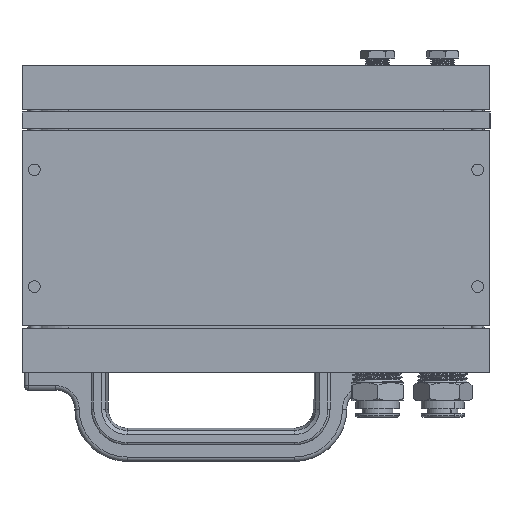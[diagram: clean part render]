
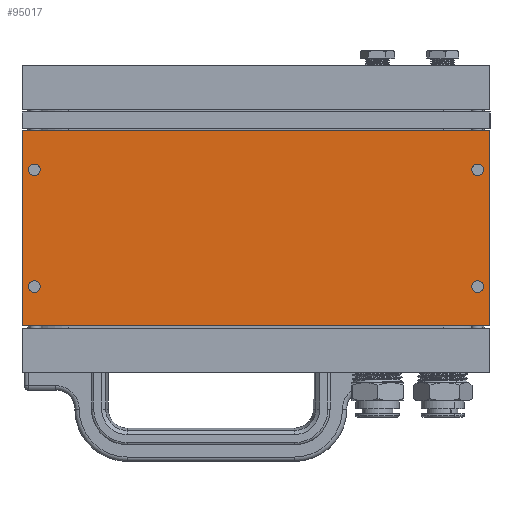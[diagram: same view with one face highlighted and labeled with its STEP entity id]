
A CAD part, front view. The second image highlights one B-rep face of the part: STEP entity #95017.
In plain terms, the highlighted planar face has unit normal (0, -1, 0).
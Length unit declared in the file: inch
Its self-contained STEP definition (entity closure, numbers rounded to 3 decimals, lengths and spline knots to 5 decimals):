
#143 = EDGE_LOOP ( 'NONE', ( #39914, #15014, #56661, #89652 ) ) ;
#324 = EDGE_LOOP ( 'NONE', ( #81173, #13217 ) ) ;
#838 = EDGE_CURVE ( 'Defeatured_0_766+Defeatured_0_759+Defeatured_0_760+Defeatured_0_762', #49766, #64704, #11660, .T. ) ;
#6622 = AXIS2_PLACEMENT_3D ( 'NONE', #99514, #28797, #68477 ) ;
#6866 = VERTEX_POINT ( 'NONE', #64709 ) ;
#9736 = DIRECTION ( 'NONE',  ( 1., 0., 0. ) ) ;
#11038 = CARTESIAN_POINT ( 'NONE',  ( -3.64173, -1.9202, -1.10925 ) ) ;
#11660 = LINE ( 'NONE', #67215, #30177 ) ;
#12342 = DIRECTION ( 'NONE',  ( -1., 0., 0. ) ) ;
#12642 = EDGE_CURVE ( 'Defeatured_0_940+Defeatured_0_759+Defeatured_0_759+Defeatured_0_759', #85215, #68831, #56760, .T. ) ;
#13217 = ORIENTED_EDGE ( 'NONE', *, *, #46165, .F. ) ;
#13472 = DIRECTION ( 'NONE',  ( 0., -1., 0. ) ) ;
#14097 = AXIS2_PLACEMENT_3D ( 'NONE', #44186, #91480, #67677 ) ;
#14709 = CIRCLE ( 'NONE', #71828, 0.09843 ) ;
#15014 = ORIENTED_EDGE ( 'NONE', *, *, #838, .F. ) ;
#15577 = CIRCLE ( 'NONE', #15764, 0.09843 ) ;
#15764 = AXIS2_PLACEMENT_3D ( 'NONE', #84209, #13472, #60719 ) ;
#18206 = ORIENTED_EDGE ( 'NONE', *, *, #90639, .F. ) ;
#18291 = ORIENTED_EDGE ( 'NONE', *, *, #67048, .F. ) ;
#20416 = CARTESIAN_POINT ( 'NONE',  ( -3.74016, -1.9202, -1.10925 ) ) ;
#20610 = FACE_OUTER_BOUND ( 'NONE', #143, .T. ) ;
#20754 = DIRECTION ( 'NONE',  ( 0., -1., 0. ) ) ;
#23290 = CARTESIAN_POINT ( 'NONE',  ( 3.95, -1.9202, -1.875 ) ) ;
#23300 = VECTOR ( 'NONE', #94346, 39.37008 ) ;
#23974 = EDGE_CURVE ( 'Defeatured_0_758+Defeatured_0_759+Defeatured_0_762+Defeatured_0_760', #81979, #59592, #99897, .T. ) ;
#23999 = EDGE_CURVE ( 'Defeatured_0_759+Defeatured_0_760+Defeatured_0_766+Defeatured_0_758', #49766, #59592, #51650, .T. ) ;
#24581 = ORIENTED_EDGE ( 'NONE', *, *, #12642, .F. ) ;
#25178 = EDGE_LOOP ( 'NONE', ( #18291, #65791 ) ) ;
#28797 = DIRECTION ( 'NONE',  ( 0., -1., 0. ) ) ;
#30177 = VECTOR ( 'NONE', #12342, 39.37008 ) ;
#30471 = CIRCLE ( 'NONE', #75310, 0.09843 ) ;
#32516 = VECTOR ( 'NONE', #47758, 39.37008 ) ;
#33876 = CARTESIAN_POINT ( 'NONE',  ( -3.95, -1.9202, -1.875 ) ) ;
#37268 = AXIS2_PLACEMENT_3D ( 'NONE', #33876, #81840, #65296 ) ;
#39914 = ORIENTED_EDGE ( 'NONE', *, *, #55363, .F. ) ;
#41809 = CIRCLE ( 'NONE', #14097, 0.09843 ) ;
#42167 = PLANE ( 'NONE',  #37268 ) ;
#43751 = EDGE_CURVE ( 'Defeatured_0_944+Defeatured_0_759+Defeatured_0_759+Defeatured_0_759', #88387, #64191, #15577, .T. ) ;
#44186 = CARTESIAN_POINT ( 'NONE',  ( -3.74016, -1.9202, 0.85925 ) ) ;
#46165 = EDGE_CURVE ( 'Defeatured_0_946+Defeatured_0_759+Defeatured_0_759+Defeatured_0_759', #92333, #6866, #53587, .T. ) ;
#46315 = DIRECTION ( 'NONE',  ( 0., -1., 0. ) ) ;
#46369 = CARTESIAN_POINT ( 'NONE',  ( -3.95, -1.9202, 1.525 ) ) ;
#46876 = AXIS2_PLACEMENT_3D ( 'NONE', #88096, #57343, #9736 ) ;
#47758 = DIRECTION ( 'NONE',  ( 0., 0., 1. ) ) ;
#49766 = VERTEX_POINT ( 'NONE', #58024 ) ;
#49790 = EDGE_CURVE ( 'Defeatured_0_946+Defeatured_0_759+Defeatured_0_759+Defeatured_0_759', #6866, #92333, #41809, .T. ) ;
#50020 = ORIENTED_EDGE ( 'NONE', *, *, #69313, .F. ) ;
#51650 = LINE ( 'NONE', #23290, #23300 ) ;
#52030 = CARTESIAN_POINT ( 'NONE',  ( -3.83858, -1.9202, 0.85925 ) ) ;
#52108 = CARTESIAN_POINT ( 'NONE',  ( 3.74016, -1.9202, -1.10925 ) ) ;
#53587 = CIRCLE ( 'NONE', #46876, 0.09843 ) ;
#53605 = AXIS2_PLACEMENT_3D ( 'NONE', #20416, #75632, #100436 ) ;
#55363 = EDGE_CURVE ( 'Defeatured_0_762+Defeatured_0_759+Defeatured_0_766+Defeatured_0_758', #64704, #81979, #96787, .T. ) ;
#56661 = ORIENTED_EDGE ( 'NONE', *, *, #23999, .T. ) ;
#56760 = CIRCLE ( 'NONE', #6622, 0.09843 ) ;
#57343 = DIRECTION ( 'NONE',  ( 0., -1., 0. ) ) ;
#57910 = VECTOR ( 'NONE', #86423, 39.37008 ) ;
#58024 = CARTESIAN_POINT ( 'NONE',  ( 3.95, -1.9202, -1.775 ) ) ;
#59592 = VERTEX_POINT ( 'NONE', #79199 ) ;
#60719 = DIRECTION ( 'NONE',  ( 1., 0., 0. ) ) ;
#60843 = DIRECTION ( 'NONE',  ( 1., 0., 0. ) ) ;
#61862 = EDGE_LOOP ( 'NONE', ( #50020, #24581 ) ) ;
#62089 = EDGE_LOOP ( 'NONE', ( #18206, #95423 ) ) ;
#62537 = CARTESIAN_POINT ( 'NONE',  ( 3.64173, -1.9202, -1.10925 ) ) ;
#63760 = FACE_BOUND ( 'NONE', #61862, .T. ) ;
#64191 = VERTEX_POINT ( 'NONE', #11038 ) ;
#64704 = VERTEX_POINT ( 'NONE', #64783 ) ;
#64709 = CARTESIAN_POINT ( 'NONE',  ( -3.64173, -1.9202, 0.85925 ) ) ;
#64783 = CARTESIAN_POINT ( 'NONE',  ( -3.95, -1.9202, -1.775 ) ) ;
#65296 = DIRECTION ( 'NONE',  ( 1., 0., 0. ) ) ;
#65791 = ORIENTED_EDGE ( 'NONE', *, *, #90608, .F. ) ;
#67048 = EDGE_CURVE ( 'Defeatured_0_942+Defeatured_0_759+Defeatured_0_759+Defeatured_0_759', #80503, #97976, #14709, .T. ) ;
#67215 = CARTESIAN_POINT ( 'NONE',  ( 3.95, -1.9202, -1.775 ) ) ;
#67677 = DIRECTION ( 'NONE',  ( 1., 0., 0. ) ) ;
#68477 = DIRECTION ( 'NONE',  ( 1., 0., 0. ) ) ;
#68831 = VERTEX_POINT ( 'NONE', #99104 ) ;
#69313 = EDGE_CURVE ( 'Defeatured_0_940+Defeatured_0_759+Defeatured_0_759+Defeatured_0_759', #68831, #85215, #30471, .T. ) ;
#71054 = DIRECTION ( 'NONE',  ( 1., 0., 0. ) ) ;
#71828 = AXIS2_PLACEMENT_3D ( 'NONE', #86607, #94519, #71054 ) ;
#73564 = CIRCLE ( 'NONE', #97283, 0.09843 ) ;
#74867 = FACE_BOUND ( 'NONE', #62089, .T. ) ;
#75310 = AXIS2_PLACEMENT_3D ( 'NONE', #100184, #46315, #60843 ) ;
#75632 = DIRECTION ( 'NONE',  ( 0., -1., 0. ) ) ;
#75967 = DIRECTION ( 'NONE',  ( 1., 0., 0. ) ) ;
#79199 = CARTESIAN_POINT ( 'NONE',  ( 3.95, -1.9202, 1.525 ) ) ;
#79208 = CARTESIAN_POINT ( 'NONE',  ( -3.95, -1.9202, -1.875 ) ) ;
#80503 = VERTEX_POINT ( 'NONE', #85185 ) ;
#81173 = ORIENTED_EDGE ( 'NONE', *, *, #49790, .F. ) ;
#81840 = DIRECTION ( 'NONE',  ( 0., -1., 0. ) ) ;
#81979 = VERTEX_POINT ( 'NONE', #85595 ) ;
#84209 = CARTESIAN_POINT ( 'NONE',  ( -3.74016, -1.9202, -1.10925 ) ) ;
#85185 = CARTESIAN_POINT ( 'NONE',  ( 3.83858, -1.9202, -1.10925 ) ) ;
#85215 = VERTEX_POINT ( 'NONE', #87194 ) ;
#85595 = CARTESIAN_POINT ( 'NONE',  ( -3.95, -1.9202, 1.525 ) ) ;
#86423 = DIRECTION ( 'NONE',  ( 1., 0., 0. ) ) ;
#86607 = CARTESIAN_POINT ( 'NONE',  ( 3.74016, -1.9202, -1.10925 ) ) ;
#87194 = CARTESIAN_POINT ( 'NONE',  ( 3.64173, -1.9202, 0.85925 ) ) ;
#88096 = CARTESIAN_POINT ( 'NONE',  ( -3.74016, -1.9202, 0.85925 ) ) ;
#88387 = VERTEX_POINT ( 'NONE', #97891 ) ;
#89652 = ORIENTED_EDGE ( 'NONE', *, *, #23974, .F. ) ;
#90608 = EDGE_CURVE ( 'Defeatured_0_942+Defeatured_0_759+Defeatured_0_759+Defeatured_0_759', #97976, #80503, #73564, .T. ) ;
#90639 = EDGE_CURVE ( 'Defeatured_0_944+Defeatured_0_759+Defeatured_0_759+Defeatured_0_759', #64191, #88387, #95720, .T. ) ;
#91480 = DIRECTION ( 'NONE',  ( 0., -1., 0. ) ) ;
#92333 = VERTEX_POINT ( 'NONE', #52030 ) ;
#93371 = FACE_BOUND ( 'NONE', #25178, .T. ) ;
#94346 = DIRECTION ( 'NONE',  ( 0., 0., 1. ) ) ;
#94519 = DIRECTION ( 'NONE',  ( 0., -1., 0. ) ) ;
#95017 = ADVANCED_FACE ( 'Defeatured_0_759', ( #100814, #74867, #93371, #63760, #20610 ), #42167, .T. ) ;
#95423 = ORIENTED_EDGE ( 'NONE', *, *, #43751, .F. ) ;
#95720 = CIRCLE ( 'NONE', #53605, 0.09843 ) ;
#96787 = LINE ( 'NONE', #79208, #32516 ) ;
#97283 = AXIS2_PLACEMENT_3D ( 'NONE', #52108, #20754, #75967 ) ;
#97891 = CARTESIAN_POINT ( 'NONE',  ( -3.83858, -1.9202, -1.10925 ) ) ;
#97976 = VERTEX_POINT ( 'NONE', #62537 ) ;
#99104 = CARTESIAN_POINT ( 'NONE',  ( 3.83858, -1.9202, 0.85925 ) ) ;
#99514 = CARTESIAN_POINT ( 'NONE',  ( 3.74016, -1.9202, 0.85925 ) ) ;
#99897 = LINE ( 'NONE', #46369, #57910 ) ;
#100184 = CARTESIAN_POINT ( 'NONE',  ( 3.74016, -1.9202, 0.85925 ) ) ;
#100436 = DIRECTION ( 'NONE',  ( 1., 0., 0. ) ) ;
#100814 = FACE_BOUND ( 'NONE', #324, .T. ) ;
